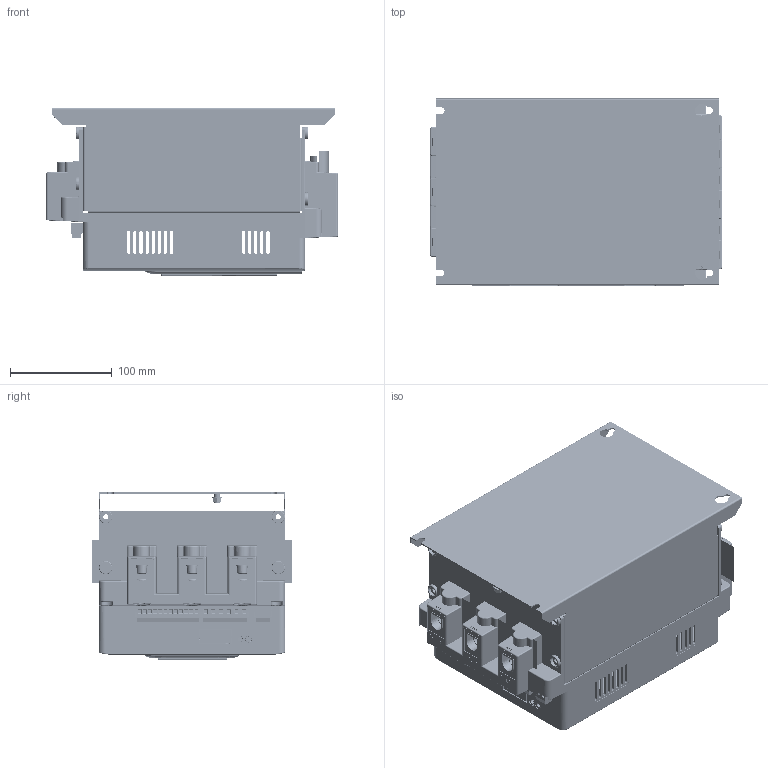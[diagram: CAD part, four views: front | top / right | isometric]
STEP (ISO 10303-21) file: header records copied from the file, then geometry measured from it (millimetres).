
FILE_DESCRIPTION((''),'2;1');
FILE_NAME('EX9QR5-90-D_ASM','2023-07-17T09:51:08',('ruanmm'),(''),'CREO PARAMETRIC BY PTC INC, 2020044','CREO PARAMETRIC BY PTC INC, 2020044','');
FILE_SCHEMA(('CONFIG_CONTROL_DESIGN','SHAPE_APPEARANCE_LAYERS_GROUPS'));
Products named in the file (102): SPCC-BOTTOM-PLATE_9_2_1_1_30_2_; NFH-M5-12-ZI_4_1_1_1_1_1_1; S-M3-1_3_1_1_1_1_1_1; S-M4-1D5_1_1_1_1; SPCC-BOTTOM-PLATE_9_2_ASM_1_ASM_ASM; SHELL-BOTTOM-0527_2_2_104_1_1_1; 8ZTD-946-134-M5X12_2_1_1_1; M3-NUT-10_1_1_1_1; BOTTOM-SIDE-PLATE-45T-ASM_ASM_2_ASM; M6-S10-H10_2_1_1_1; POST-COVER-QIAO_33_1_1_1; GB-845-ST3-9D5-1_5_1_1_1; BOTTOM-SHELL-ASM_ASM_21_ASM_1_A_ASM; TOP_SHELL-BOTTOM_0607_1_2_133_1; TOP-SIDE0PLATE-45T-ASM_ASM_2_AS_ASM; GB-845-ST3-9D5_4_1_1_1; TOP-SHELL-ASM_ASM_26_ASM_1_ASM__ASM; BASE-SPCC-PLATE-ASM_ASM_5_ASM_1_ASM; LAY-SRQ-BOTTOMSHELL_1_1_1_1_1_1; 8574M0726115_1_1_1_1_1_1_1; 8900M0312101_1_1_4_1_1_1; POST-LTC21NAA-ASM_ASM_3_ASM_1_A_ASM; M6-16-N6Z_5_1_1_1; COPPER-160A-1_ASM_3_ASM_1_ASM_1_ASM; SDDP_A_1_ASM_1_ASM_1_ASM_1_ASM__ASM; ZLHG-A_ASM_1_ASM_1_ASM_1_ASM_1__ASM; COPPER-PLATE-RST_A_ASM_ASM_1_AS_ASM; MOKUAI-160A-ASM_ASM_1_ASM_1_ASM_ASM; MOKUAI-160A_ASM_1_ASM_1_ASM_1_A_ASM; 110A-CU-2_ASM_3_ASM_1_ASM_1_ASM_ASM; MOKUAI-70-ASM_ASM_54_ASM_4_ASM__ASM; M4X6_5_1_1_1; RNB-8-4-62A_1_1_1_1; MIC-SHELL-ASM_ASM_14_ASM_2_ASM__ASM; PTB750B-03-5-06-3----7-62-4P__2; PTB750B-03-12---5-08-12P__1_1_1; SUPPORT_PCB_1_1_9_1_1_1; SOOS-M3-11-ZI_1_1_6_1_1_1; INSULATED_PAPER_1_2_1_10_1_1_1; PCB-ZJB-NEW_2_1_1_1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
Assembly tree (146 placements, depth 11):
  EX9QR5-90-D_ASM
    EX9QR5-90-D_ASM_1_ASM
      0-1-EX9QR5-45KW-ALL_ASM_ASM_ASM_ASM
        0-1-EX9QR5-45KW-ALL_ASM_ASM_14__ASM
          0-1-EX9QR5-45KW-ALL_ASM_33_ASM__ASM
            BASE-SPCC-PLATE-ASM_ASM_5_ASM_1_ASM
              SPCC-BOTTOM-PLATE_9_2_ASM_1_ASM_ASM
                SPCC-BOTTOM-PLATE_9_2_1_1_30_2_
                NFH-M5-12-ZI_4_1_1_1_1_1_1
                S-M3-1_3_1_1_1_1_1_1  x2
                S-M4-1D5_1_1_1_1  x5
              BOTTOM-SHELL-ASM_ASM_21_ASM_1_A_ASM
                BOTTOM-SIDE-PLATE-45T-ASM_ASM_2_ASM
                  SHELL-BOTTOM-0527_2_2_104_1_1_1
                  8ZTD-946-134-M5X12_2_1_1_1  x2
                  M3-NUT-10_1_1_1_1
                M3-NUT-10_1_1_1_1
                M6-S10-H10_2_1_1_1  x3
                POST-COVER-QIAO_33_1_1_1  x3
                GB-845-ST3-9D5-1_5_1_1_1  x3
              TOP-SHELL-ASM_ASM_26_ASM_1_ASM__ASM
                TOP-SIDE0PLATE-45T-ASM_ASM_2_AS_ASM
                  TOP_SHELL-BOTTOM_0607_1_2_133_1
                  8ZTD-946-134-M5X12_2_1_1_1  x2
                POST-COVER-QIAO_33_1_1_1  x6
                GB-845-ST3-9D5_4_1_1_1  x6
                M6-S10-H10_2_1_1_1  x6
            MIC-SHELL-ASM_ASM_14_ASM_2_ASM__ASM
              LAY-SRQ-BOTTOMSHELL_1_1_1_1_1_1
              MOKUAI-160A_ASM_1_ASM_1_ASM_1_A_ASM  x3
                MOKUAI-160A-ASM_ASM_1_ASM_1_ASM_ASM
                  COPPER-160A-1_ASM_3_ASM_1_ASM_1_ASM
                  COPPER-PLATE-RST_A_ASM_ASM_1_AS_ASM
                    POST-LTC21NAA-ASM_ASM_3_ASM_1_A_ASM  x2
                    M6-16-N6Z_5_1_1_1  x2
              MOKUAI-70-ASM_ASM_54_ASM_4_ASM__ASM  x3
                110A-CU-2_ASM_3_ASM_1_ASM_1_ASM_ASM
              M4X6_5_1_1_1  x2
              RNB-8-4-62A_1_1_1_1
            CPU-DIANYUANBAN-ASM_ASM_23_ASM__ASM
              PTB750B-03-5-06-3----7-62-4P__2
              PTB750B-03-12---5-08-12P__1_1_1
              SUPPORT_ASM_1_ASM_1_ASM_11_ASM__ASM
                SUPPORT_PCB_1_1_9_1_1_1
                SOOS-M3-11-ZI_1_1_6_1_1_1  x2
                INSULATED_PAPER_1_2_1_10_1_1_1
                PCB-ZJB-NEW_2_1_1_1
            UP-SHELL-ASM_ASM_20_ASM_2_ASM_1_ASM
              NJR3-KZH-JX-SK-20210708_8_1_1_1
              TOP-SHELL_ASM_4_ASM_2_1_1
              PVC-POST_5_1_1_2_1_1_1
              PVC-POST_2_1_1_1
          8315JR1601-UP_SHELL-45KW_2_1_1
          ZHONGZHUTU2__ASM_1_ASM_1_ASM_2__ASM
            SHANGGAI-XIN__2_1_2_1_1
            M3TONG__1_1_2_1_1  x4
            XLB-XIN-3_ASM_1_ASM_2_ASM_1_ASM_ASM
              PCB-BL_1_2_1_1
            XSGMP-75ZX-M__2_ASM_1_ASM_2_ASM_ASM
              MANIFOLD_SOLID_BREP_40621_1_ASM_ASM
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Bounding box: 288.1 x 197.04 x 165.51 mm (x, y, z)
Volume: 584764 mm3; surface area: 879632.3 mm2
Topology: 131 solids, 148 shells, 16424 faces, 45496 edges, 30105 vertices
Faces by surface type: plane 11811, cylinder 2544, extrusion 1286, cone 362, bspline 213, torus 123, sphere 85
Entity records: 442286 total; most frequent: CARTESIAN_POINT 92247, ORIENTED_EDGE 58664, DIRECTION 52532, EDGE_CURVE 29454, VECTOR 24286, LINE 24120, VERTEX_POINT 19472, PRESENTATION_STYLE_ASSIGNMENT 18398
